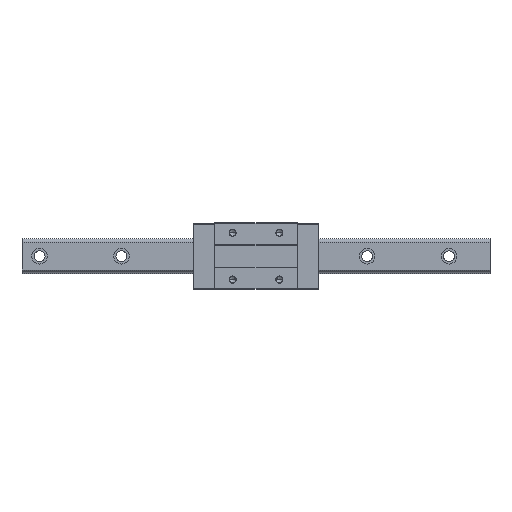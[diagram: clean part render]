
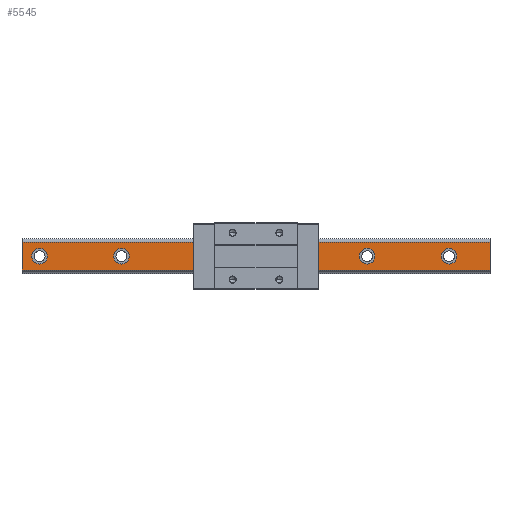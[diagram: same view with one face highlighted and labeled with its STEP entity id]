
A CAD part, top view. The second image highlights one B-rep face of the part: STEP entity #5545.
In plain terms, the highlighted planar face has unit normal (0, 0, 1).
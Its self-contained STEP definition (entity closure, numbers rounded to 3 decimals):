
#14 = AXIS2_PLACEMENT_3D ( 'NONE', #2790, #3673, #962 ) ;
#19 = CIRCLE ( 'NONE', #738, 10. ) ;
#45 = CARTESIAN_POINT ( 'NONE',  ( -77.5, 0., 32. ) ) ;
#92 = CARTESIAN_POINT ( 'NONE',  ( 300., -17.696, 32. ) ) ;
#111 = FACE_BOUND ( 'NONE', #2843, .T. ) ;
#112 = ORIENTED_EDGE ( 'NONE', *, *, #436, .F. ) ;
#203 = DIRECTION ( 'NONE',  ( 0., 0., 1. ) ) ;
#293 = DIRECTION ( 'NONE',  ( 1., 0., 0. ) ) ;
#328 = EDGE_LOOP ( 'NONE', ( #5155, #728 ) ) ;
#372 = CARTESIAN_POINT ( 'NONE',  ( -172.5, 0., 32. ) ) ;
#433 = CARTESIAN_POINT ( 'NONE',  ( -57.5, 0., 32. ) ) ;
#436 = EDGE_CURVE ( 'NONE', #3824, #1583, #19, .T. ) ;
#454 = VERTEX_POINT ( 'NONE', #713 ) ;
#504 = CARTESIAN_POINT ( 'NONE',  ( 300., 17.696, 32. ) ) ;
#533 = FACE_BOUND ( 'NONE', #5321, .T. ) ;
#538 = EDGE_LOOP ( 'NONE', ( #1369, #783 ) ) ;
#562 = FACE_BOUND ( 'NONE', #4373, .T. ) ;
#591 = DIRECTION ( 'NONE',  ( 0., 0., -1. ) ) ;
#613 = ORIENTED_EDGE ( 'NONE', *, *, #4939, .T. ) ;
#622 = CIRCLE ( 'NONE', #4172, 10. ) ;
#713 = CARTESIAN_POINT ( 'NONE',  ( -267.5, 0., 32. ) ) ;
#728 = ORIENTED_EDGE ( 'NONE', *, *, #2499, .F. ) ;
#738 = AXIS2_PLACEMENT_3D ( 'NONE', #1033, #2371, #293 ) ;
#769 = VERTEX_POINT ( 'NONE', #92 ) ;
#783 = ORIENTED_EDGE ( 'NONE', *, *, #2567, .F. ) ;
#795 = EDGE_CURVE ( 'NONE', #3910, #2076, #4663, .T. ) ;
#856 = DIRECTION ( 'NONE',  ( 1., 0., 0. ) ) ;
#867 = CIRCLE ( 'NONE', #4510, 10. ) ;
#921 = CARTESIAN_POINT ( 'NONE',  ( 300., -17.696, 32. ) ) ;
#939 = CARTESIAN_POINT ( 'NONE',  ( 132.5, 0., 32. ) ) ;
#962 = DIRECTION ( 'NONE',  ( 1., 0., 0. ) ) ;
#1009 = DIRECTION ( 'NONE',  ( 1., 0., 0. ) ) ;
#1018 = FACE_OUTER_BOUND ( 'NONE', #2700, .T. ) ;
#1033 = CARTESIAN_POINT ( 'NONE',  ( -172.5, 0., 32. ) ) ;
#1076 = CARTESIAN_POINT ( 'NONE',  ( 300., -17.696, 32. ) ) ;
#1090 = EDGE_LOOP ( 'NONE', ( #4804, #112 ) ) ;
#1172 = CIRCLE ( 'NONE', #3820, 10. ) ;
#1313 = EDGE_CURVE ( 'NONE', #769, #3718, #1744, .T. ) ;
#1332 = AXIS2_PLACEMENT_3D ( 'NONE', #5440, #3667, #4653 ) ;
#1369 = ORIENTED_EDGE ( 'NONE', *, *, #3771, .F. ) ;
#1416 = FACE_BOUND ( 'NONE', #538, .T. ) ;
#1439 = AXIS2_PLACEMENT_3D ( 'NONE', #372, #3448, #3846 ) ;
#1561 = EDGE_CURVE ( 'NONE', #4927, #4840, #867, .T. ) ;
#1579 = CARTESIAN_POINT ( 'NONE',  ( 247.5, 0., 32. ) ) ;
#1583 = VERTEX_POINT ( 'NONE', #2781 ) ;
#1613 = ORIENTED_EDGE ( 'NONE', *, *, #1313, .F. ) ;
#1700 = AXIS2_PLACEMENT_3D ( 'NONE', #3017, #2103, #4295 ) ;
#1718 = DIRECTION ( 'NONE',  ( 1., 0., 0. ) ) ;
#1726 = EDGE_CURVE ( 'NONE', #3041, #4855, #3901, .T. ) ;
#1744 = LINE ( 'NONE', #921, #2409 ) ;
#1785 = CIRCLE ( 'NONE', #1332, 10. ) ;
#1812 = CARTESIAN_POINT ( 'NONE',  ( -287.5, 0., 32. ) ) ;
#1898 = PLANE ( 'NONE',  #3836 ) ;
#1967 = ORIENTED_EDGE ( 'NONE', *, *, #2326, .F. ) ;
#2071 = DIRECTION ( 'NONE',  ( 0., -1., 0. ) ) ;
#2076 = VERTEX_POINT ( 'NONE', #3549 ) ;
#2103 = DIRECTION ( 'NONE',  ( 0., 0., 1. ) ) ;
#2144 = DIRECTION ( 'NONE',  ( 0., 0., 1. ) ) ;
#2229 = DIRECTION ( 'NONE',  ( -1., 0., 0. ) ) ;
#2240 = DIRECTION ( 'NONE',  ( -1., 0., 0. ) ) ;
#2244 = DIRECTION ( 'NONE',  ( 1., 0., 0. ) ) ;
#2326 = EDGE_CURVE ( 'NONE', #4840, #4927, #1172, .T. ) ;
#2346 = AXIS2_PLACEMENT_3D ( 'NONE', #2688, #2144, #3882 ) ;
#2357 = AXIS2_PLACEMENT_3D ( 'NONE', #4417, #3195, #4075 ) ;
#2369 = CARTESIAN_POINT ( 'NONE',  ( 47.5, 0., 32. ) ) ;
#2371 = DIRECTION ( 'NONE',  ( 0., 0., 1. ) ) ;
#2378 = CIRCLE ( 'NONE', #14, 10. ) ;
#2409 = VECTOR ( 'NONE', #2240, 1000. ) ;
#2494 = ORIENTED_EDGE ( 'NONE', *, *, #3176, .F. ) ;
#2499 = EDGE_CURVE ( 'NONE', #3598, #454, #5234, .T. ) ;
#2538 = DIRECTION ( 'NONE',  ( 0., 0., 1. ) ) ;
#2556 = EDGE_CURVE ( 'NONE', #4707, #3718, #4828, .T. ) ;
#2560 = CARTESIAN_POINT ( 'NONE',  ( 257.5, 0., 32. ) ) ;
#2567 = EDGE_CURVE ( 'NONE', #2954, #2826, #1785, .T. ) ;
#2668 = DIRECTION ( 'NONE',  ( 0., -1., 0. ) ) ;
#2688 = CARTESIAN_POINT ( 'NONE',  ( -67.5, 0., 32. ) ) ;
#2700 = EDGE_LOOP ( 'NONE', ( #3804, #1613, #5268, #613 ) ) ;
#2702 = VECTOR ( 'NONE', #2668, 1000. ) ;
#2711 = CIRCLE ( 'NONE', #2346, 10. ) ;
#2730 = FACE_BOUND ( 'NONE', #328, .T. ) ;
#2762 = CARTESIAN_POINT ( 'NONE',  ( 300., -17.696, 32. ) ) ;
#2781 = CARTESIAN_POINT ( 'NONE',  ( -162.5, 0., 32. ) ) ;
#2785 = CARTESIAN_POINT ( 'NONE',  ( -277.5, 0., 32. ) ) ;
#2790 = CARTESIAN_POINT ( 'NONE',  ( 142.5, 0., 32. ) ) ;
#2825 = CARTESIAN_POINT ( 'NONE',  ( 37.5, 0., 32. ) ) ;
#2826 = VERTEX_POINT ( 'NONE', #433 ) ;
#2843 = EDGE_LOOP ( 'NONE', ( #5296, #2896 ) ) ;
#2896 = ORIENTED_EDGE ( 'NONE', *, *, #5511, .F. ) ;
#2953 = VECTOR ( 'NONE', #2071, 1000. ) ;
#2954 = VERTEX_POINT ( 'NONE', #45 ) ;
#3017 = CARTESIAN_POINT ( 'NONE',  ( -277.5, 0., 32. ) ) ;
#3041 = VERTEX_POINT ( 'NONE', #4619 ) ;
#3086 = CARTESIAN_POINT ( 'NONE',  ( -300., -17.696, 32. ) ) ;
#3176 = EDGE_CURVE ( 'NONE', #2076, #3910, #622, .T. ) ;
#3191 = DIRECTION ( 'NONE',  ( 0., 0., 1. ) ) ;
#3195 = DIRECTION ( 'NONE',  ( 0., 0., 1. ) ) ;
#3203 = CARTESIAN_POINT ( 'NONE',  ( -182.5, 0., 32. ) ) ;
#3287 = DIRECTION ( 'NONE',  ( 1., 0., 0. ) ) ;
#3341 = AXIS2_PLACEMENT_3D ( 'NONE', #2785, #3191, #2244 ) ;
#3448 = DIRECTION ( 'NONE',  ( 0., 0., 1. ) ) ;
#3549 = CARTESIAN_POINT ( 'NONE',  ( 27.5, 0., 32. ) ) ;
#3598 = VERTEX_POINT ( 'NONE', #1812 ) ;
#3629 = CIRCLE ( 'NONE', #1700, 10. ) ;
#3667 = DIRECTION ( 'NONE',  ( 0., 0., 1. ) ) ;
#3673 = DIRECTION ( 'NONE',  ( 0., 0., 1. ) ) ;
#3718 = VERTEX_POINT ( 'NONE', #3086 ) ;
#3725 = CARTESIAN_POINT ( 'NONE',  ( -300., 17.696, 32. ) ) ;
#3771 = EDGE_CURVE ( 'NONE', #2826, #2954, #2711, .T. ) ;
#3804 = ORIENTED_EDGE ( 'NONE', *, *, #2556, .T. ) ;
#3820 = AXIS2_PLACEMENT_3D ( 'NONE', #5157, #4744, #1718 ) ;
#3824 = VERTEX_POINT ( 'NONE', #3203 ) ;
#3836 = AXIS2_PLACEMENT_3D ( 'NONE', #2762, #591, #4071 ) ;
#3846 = DIRECTION ( 'NONE',  ( 1., 0., 0. ) ) ;
#3847 = ORIENTED_EDGE ( 'NONE', *, *, #795, .F. ) ;
#3882 = DIRECTION ( 'NONE',  ( 1., 0., 0. ) ) ;
#3896 = CIRCLE ( 'NONE', #1439, 10. ) ;
#3901 = CIRCLE ( 'NONE', #2357, 10. ) ;
#3910 = VERTEX_POINT ( 'NONE', #2369 ) ;
#3978 = CARTESIAN_POINT ( 'NONE',  ( -300., -17.696, 32. ) ) ;
#4071 = DIRECTION ( 'NONE',  ( -1., 0., 0. ) ) ;
#4074 = EDGE_CURVE ( 'NONE', #454, #3598, #3629, .T. ) ;
#4075 = DIRECTION ( 'NONE',  ( 1., 0., 0. ) ) ;
#4127 = LINE ( 'NONE', #1076, #2953 ) ;
#4172 = AXIS2_PLACEMENT_3D ( 'NONE', #5123, #2538, #856 ) ;
#4204 = EDGE_CURVE ( 'NONE', #1583, #3824, #3896, .T. ) ;
#4208 = ORIENTED_EDGE ( 'NONE', *, *, #1561, .F. ) ;
#4295 = DIRECTION ( 'NONE',  ( 1., 0., 0. ) ) ;
#4373 = EDGE_LOOP ( 'NONE', ( #3847, #2494 ) ) ;
#4417 = CARTESIAN_POINT ( 'NONE',  ( 142.5, 0., 32. ) ) ;
#4452 = EDGE_CURVE ( 'NONE', #5525, #769, #4127, .T. ) ;
#4510 = AXIS2_PLACEMENT_3D ( 'NONE', #1579, #4911, #1009 ) ;
#4619 = CARTESIAN_POINT ( 'NONE',  ( 152.5, 0., 32. ) ) ;
#4653 = DIRECTION ( 'NONE',  ( 1., 0., 0. ) ) ;
#4663 = CIRCLE ( 'NONE', #5018, 10. ) ;
#4707 = VERTEX_POINT ( 'NONE', #3725 ) ;
#4744 = DIRECTION ( 'NONE',  ( 0., 0., 1. ) ) ;
#4804 = ORIENTED_EDGE ( 'NONE', *, *, #4204, .F. ) ;
#4828 = LINE ( 'NONE', #3978, #2702 ) ;
#4840 = VERTEX_POINT ( 'NONE', #4841 ) ;
#4841 = CARTESIAN_POINT ( 'NONE',  ( 237.5, 0., 32. ) ) ;
#4855 = VERTEX_POINT ( 'NONE', #939 ) ;
#4911 = DIRECTION ( 'NONE',  ( 0., 0., 1. ) ) ;
#4927 = VERTEX_POINT ( 'NONE', #2560 ) ;
#4939 = EDGE_CURVE ( 'NONE', #5525, #4707, #5259, .T. ) ;
#5018 = AXIS2_PLACEMENT_3D ( 'NONE', #2825, #203, #3287 ) ;
#5123 = CARTESIAN_POINT ( 'NONE',  ( 37.5, 0., 32. ) ) ;
#5155 = ORIENTED_EDGE ( 'NONE', *, *, #4074, .F. ) ;
#5157 = CARTESIAN_POINT ( 'NONE',  ( 247.5, 0., 32. ) ) ;
#5234 = CIRCLE ( 'NONE', #3341, 10. ) ;
#5259 = LINE ( 'NONE', #5588, #5390 ) ;
#5268 = ORIENTED_EDGE ( 'NONE', *, *, #4452, .F. ) ;
#5296 = ORIENTED_EDGE ( 'NONE', *, *, #1726, .F. ) ;
#5321 = EDGE_LOOP ( 'NONE', ( #4208, #1967 ) ) ;
#5335 = FACE_BOUND ( 'NONE', #1090, .T. ) ;
#5390 = VECTOR ( 'NONE', #2229, 1000. ) ;
#5440 = CARTESIAN_POINT ( 'NONE',  ( -67.5, 0., 32. ) ) ;
#5511 = EDGE_CURVE ( 'NONE', #4855, #3041, #2378, .T. ) ;
#5525 = VERTEX_POINT ( 'NONE', #504 ) ;
#5545 = ADVANCED_FACE ( 'NONE', ( #533, #111, #562, #1416, #5335, #2730, #1018 ), #1898, .F. ) ;
#5588 = CARTESIAN_POINT ( 'NONE',  ( 300., 17.696, 32. ) ) ;
